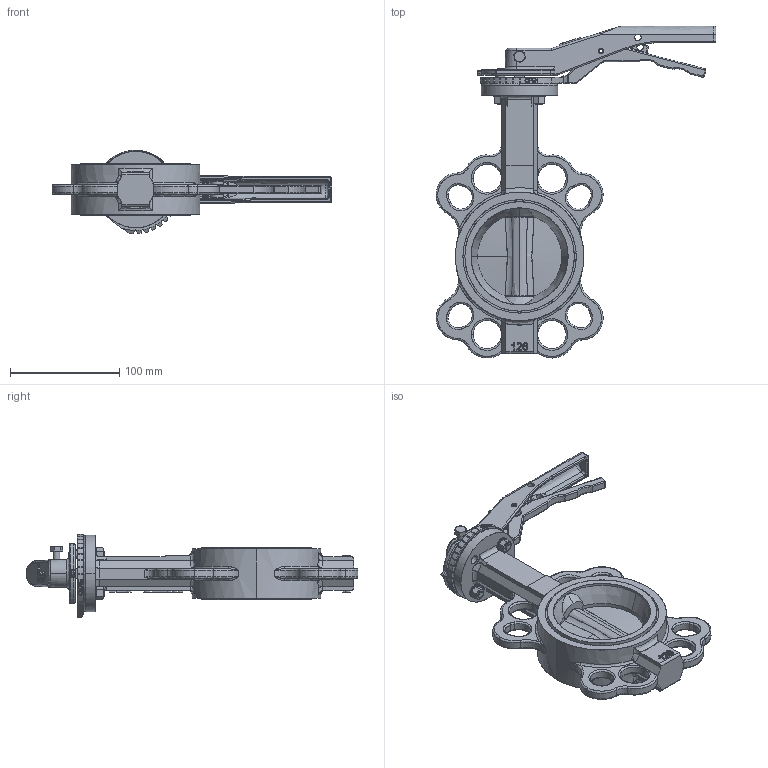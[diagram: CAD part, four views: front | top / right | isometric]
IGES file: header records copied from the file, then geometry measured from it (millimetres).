
Start section: SolidWorks IGES file using analytic representation for surfaces
Global section: file name: H:\BE BIBLIOTHEQUE 3D\Projet_Biblio3D_2016\FSK\VPE\VPE-02\DN80\VPE-02 DN80.IGS; native system: SolidWorks 2014; preprocessor: SolidWorks 2014; author: c.maitre; date: 160928.163151; units: millimetre
Bounding box: 256.57 x 304.39 x 76.45 mm (x, y, z)
Surface area: 162760.3 mm2 (no closed solid volume)
Topology: 0 solids, 0 shells, 1516 faces, 19703 edges, 19635 vertices
Faces by surface type: bspline 921, revolution 595
